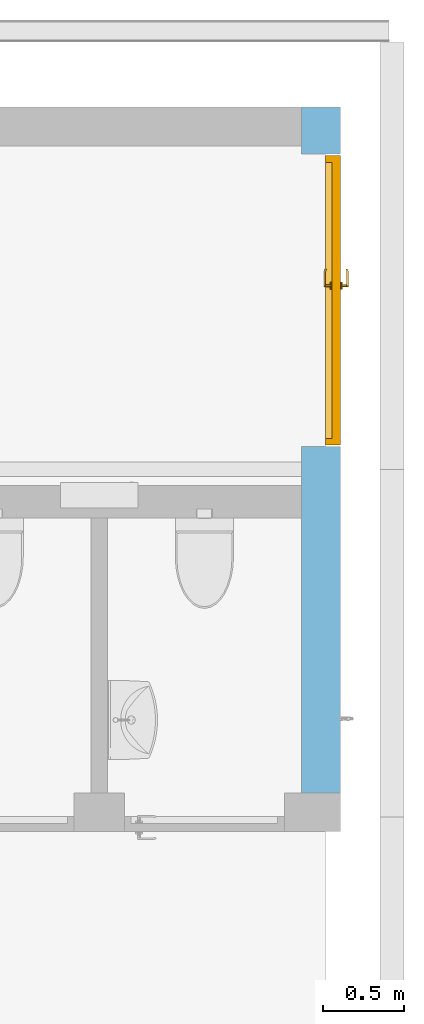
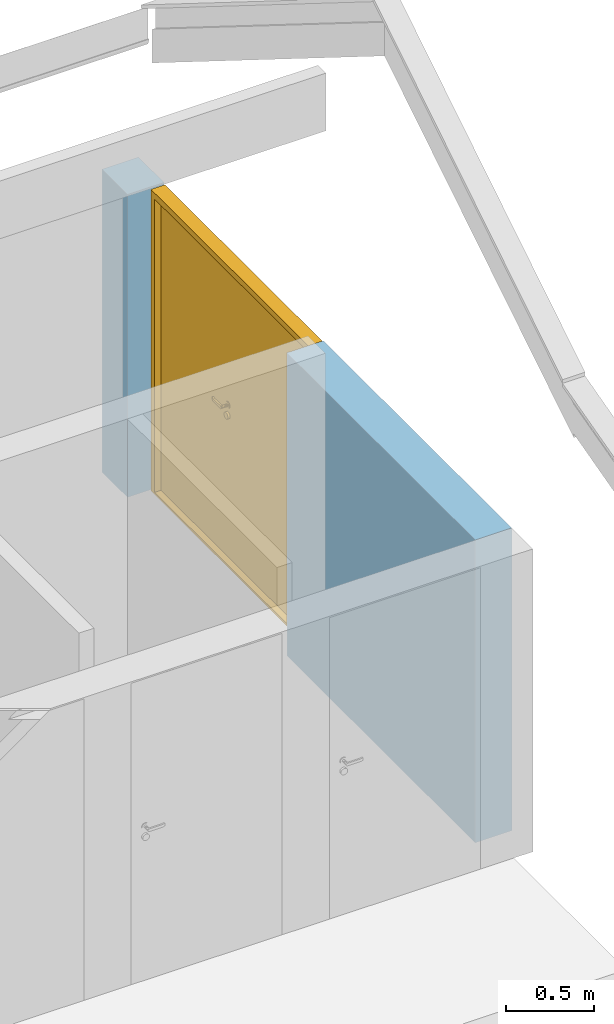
# One storey, part 7 of 15: 1 door, 1 opening, plus 1 element that does not belong to this part.
"""IFC2X3 building model written with IfcOpenShell, lengths in millimetres."""

from ifc_helpers import new_model, entity, si_unit, converted_unit, direction, frame, frame_2d, origin, place, context, subcontext, project, spatial, rectangle, extrude, faceted_brep, source, transform, mapped, material, material_list, layer, layer_set, layer_usage, type_object, type_shapes, element, fill, save


model = new_model("IFC2X3")

# Units and contexts
model_context = context("Model", 3, precision=0.01, world=origin(), true_north=direction((0.0, 1.0)))
body_context = subcontext(model_context, "Body", "Model", "MODEL_VIEW")
ifc_project = project(units=[si_unit("LENGTHUNIT", "METRE", prefix="MILLI"), si_unit("AREAUNIT", "SQUARE_METRE"), si_unit("VOLUMEUNIT", "CUBIC_METRE"), converted_unit("PLANEANGLEUNIT", "DEGREE", entity("IfcPlaneAngleMeasure", 0.017453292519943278), si_unit("PLANEANGLEUNIT", "RADIAN"), dimensions=[0, 0, 0, 0, 0, 0, 0])], contexts=[model_context])

# Site, building, storey
site_placement = place(None, origin())
site = spatial("IfcSite", under=ifc_project, at=site_placement, Name="Default", CompositionType="ELEMENT")
building_placement = place(site_placement, origin())
building = spatial("IfcBuilding", under=site, at=building_placement, CompositionType="ELEMENT")
storey_placement = place(building_placement, origin())
storey = spatial("IfcBuildingStorey", under=building, at=storey_placement, Name="Et. 1", CompositionType="ELEMENT", Elevation=0.0)

# Wall, opening, door
ifc_material_1 = material(Name="Vegg - Dobbelfals Stående Kledning - Mørkegrå")
ifc_layer_1 = layer(ifc_material_1, 19.0)
ifc_material_2 = material(Name="Default Floor")
ifc_layer_2 = layer(ifc_material_2, 36.0)
ifc_layer_3 = layer(ifc_material_2, 23.0)
ifc_layer_4 = layer(ifc_material_2, 12.0)
ifc_material_3 = material(Name="Vegg - Stender - Isolert")
ifc_layer_5 = layer(ifc_material_3, 150.0)
ifc_layer_set = layer_set([ifc_layer_1, ifc_layer_2, ifc_layer_3, ifc_layer_4, ifc_layer_5], Name="Basic Wall:Yttervegg stående kl")
ifc_layer_usage = layer_usage(ifc_layer_set, "AXIS2", "POSITIVE", -120.00000000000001)
wall_type = type_object("IfcWallType", Name="Basic Wall:Yttervegg stående kl", PredefinedType="STANDARD", material=ifc_layer_set)
wall_placement = place(storey_placement, frame((23670.567419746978, 11853.190261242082, 0.0), z_axis=(0.0, 0.0, 1.0), x_axis=(0.0, 1.0, 0.0)))
wall = element("IfcWallStandardCase", 1, at=wall_placement, inside=storey, type_object=wall_type, material=ifc_layer_usage, Name="Basic Wall:Yttervegg stående kl", context=body_context, shape_type="SweptSolid", body=[
    extrude(rectangle(XDim=4240.000000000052, YDim=240.00000000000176, at=frame_2d((2120.000000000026, -2.5082158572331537e-12), x_axis=(1.0, 0.0))), origin(), (0.0, 0.0, 1.0), 2100.0),
])
opening_placement = place(wall_placement, frame((3950.0, 120.0, 0.0)))
opening = element("IfcOpeningElement", 2, at=opening_placement, cuts=wall, Name="YD dobbel hel omramming:18x21M:1", ObjectType="Opening", context=body_context, shape_type="SweptSolid", body=[
    extrude(rectangle(XDim=1810.0000000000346, YDim=2100.000000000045, at=frame_2d((1050.0000000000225, 905.0000000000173), x_axis=(0.0, -1.0))), frame((0.0, 0.0, 0.0), z_axis=(0.0, -1.0, 0.0), x_axis=(0.0, 0.0, 1.0)), (0.0, 0.0, 1.0), 240.00000000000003),
])
ifc_material_4 = material(Name="Focus - Dør - Håndtak")
ifc_material_5 = material(Name="Focus - Dør - Terskel - Eik")
ifc_material_list = material_list([ifc_material_4, ifc_material_1, ifc_material_5])
door_style = type_object("IfcDoorStyle", Name="YD dobbel hel omramming:18x21M", ConstructionType="NOTDEFINED", OperationType="DOUBLE_DOOR_SINGLE_SWING", ParameterTakesPrecedence=False, Sizeable=False, material=ifc_material_list)
shared_shape = source(origin(), body_context, "Body", "Brep", [
    faceted_brep([(815.0, 140.0, 1061.0), (727.4876577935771, 140.0, 1061.0), (709.4308821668, 144.8382984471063, 1061.0), (712.0190726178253, 154.49755670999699, 1061.0), (728.8041827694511, 150.0, 1061.0), (815.0, 150.0, 1061.0), (812.6706285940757, 150.0, 1061.3066675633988), (728.8041827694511, 150.0, 1079.0), (815.0, 150.0, 1079.0), (812.6706285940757, 150.0, 1078.693332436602), (810.4999999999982, 150.0, 1077.7942286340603), (808.6360389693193, 150.0, 1076.3639610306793), (807.2057713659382, 150.0, 1074.5000000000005), (806.3066675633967, 150.0, 1072.3293714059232), (806.0, 150.0, 1070.0), (806.3066675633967, 150.0, 1067.6706285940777), (807.2057713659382, 150.0, 1065.5000000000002), (808.6360389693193, 150.0, 1063.6360389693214), (810.4999999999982, 150.0, 1062.2057713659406), (815.0, 140.0, 1079.0), (712.0190726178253, 154.497556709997, 1079.0), (709.4308821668, 144.83829844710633, 1079.0), (727.4876577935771, 140.0, 1079.0), (824.0, 140.0, 1070.0), (823.7739335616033, 140.0, 1072.0045173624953), (823.1082066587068, 140.0, 1073.9060190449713), (822.0361879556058, 140.0, 1075.6117785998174), (820.6117785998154, 140.0, 1077.036187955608), (818.9060190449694, 140.0, 1078.1082066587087), (817.0038376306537, 140.0, 1078.7740888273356), (817.0038376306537, 140.0, 1061.225911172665), (818.9060190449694, 140.0, 1061.891793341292), (820.6117785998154, 140.0, 1062.9638120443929), (822.0361879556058, 140.0, 1064.3882214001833), (823.1082066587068, 140.0, 1066.093980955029), (823.7739335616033, 140.0, 1067.9954826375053), (823.6933324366, 184.0, 1072.329371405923), (824.0, 184.0, 1070.0), (822.7942286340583, 184.0, 1074.5000000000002), (821.3639610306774, 184.0, 1076.363961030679), (819.4999999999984, 184.0, 1077.7942286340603), (817.3293714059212, 184.0, 1078.693332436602), (812.6706285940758, 184.0, 1078.693332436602), (815.0, 184.0, 1079.0), (810.4999999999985, 184.0, 1077.7942286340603), (808.6360389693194, 184.0, 1076.3639610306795), (807.2057713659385, 184.0, 1074.5000000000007), (806.3066675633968, 184.0, 1072.3293714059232), (806.0, 184.0, 1070.0), (806.3066675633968, 184.0, 1067.6706285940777), (807.2057713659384, 184.0, 1065.5000000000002), (808.6360389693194, 184.0, 1063.6360389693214), (810.4999999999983, 184.0, 1062.2057713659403), (812.6706285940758, 184.0, 1061.3066675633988), (815.0, 184.0, 1061.0), (817.329371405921, 184.0, 1061.3066675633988), (819.4999999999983, 184.0, 1062.2057713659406), (821.3639610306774, 184.0, 1063.6360389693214), (823.6933324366, 184.0, 1067.6706285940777), (822.7942286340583, 184.0, 1065.5000000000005), (804.0, 184.0, 1089.0525588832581), (799.4436508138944, 184.0, 1085.5563491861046), (809.305981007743, 184.0, 1091.2503681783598), (815.0, 184.0, 1092.0), (820.6940189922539, 184.0, 1091.2503681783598), (826.0, 184.0, 1089.052558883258), (830.5563491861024, 184.0, 1085.5563491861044), (834.052558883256, 184.0, 1081.0), (836.2503681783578, 184.0, 1075.694018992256), (837.0, 184.0, 1070.0), (836.2503681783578, 184.0, 1064.3059810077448), (834.052558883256, 184.0, 1059.0), (830.5563491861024, 184.0, 1054.4436508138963), (826.0, 184.0, 1050.9474411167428), (820.6940189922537, 184.0, 1048.7496318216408), (815.0, 184.0, 1048.0), (809.3059810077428, 184.0, 1048.749631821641), (804.0, 184.0, 1050.9474411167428), (799.4436508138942, 184.0, 1054.4436508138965), (795.9474411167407, 184.0, 1059.0), (793.7496318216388, 184.0, 1064.305981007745), (793.0, 184.0, 1070.0), (793.7496318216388, 184.0, 1075.694018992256), (795.9474411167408, 184.0, 1081.0), (809.3059810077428, 190.0, 1048.749631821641), (804.0, 190.0, 1050.9474411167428), (799.4436508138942, 190.0, 1054.4436508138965), (795.9474411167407, 190.0, 1059.0), (793.7496318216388, 190.0, 1064.305981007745), (793.0, 190.0, 1070.0), (793.7496318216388, 190.0, 1075.694018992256), (795.9474411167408, 190.0, 1081.0), (799.4436508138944, 190.0, 1085.5563491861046), (804.0, 190.0, 1089.0525588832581), (809.305981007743, 190.0, 1091.2503681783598), (815.0, 190.0, 1092.0), (820.6940189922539, 190.0, 1091.2503681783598), (826.0, 190.0, 1089.052558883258), (830.5563491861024, 190.0, 1085.5563491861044), (834.052558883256, 190.0, 1081.0), (836.2503681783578, 190.0, 1075.694018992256), (837.0, 190.0, 1070.0), (836.2503681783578, 190.0, 1064.3059810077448), (834.052558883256, 190.0, 1059.0), (830.5563491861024, 190.0, 1054.4436508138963), (826.0, 190.0, 1050.9474411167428), (820.6940189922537, 190.0, 1048.7496318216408), (815.0, 190.0, 1048.0)], [[[0, 1, 2, 3, 4, 5]], [[6, 5, 4, 7, 8, 9, 10, 11, 12, 13, 14, 15, 16, 17, 18]], [[19, 8, 7, 20, 21, 22]], [[23, 24, 25, 26, 27, 28, 29, 19, 22, 1, 0, 30, 31, 32, 33, 34, 35]], [[3, 2, 21, 20]], [[7, 4, 3, 20]], [[1, 22, 21, 2]], [[36, 24, 37]], [[36, 8, 25]], [[38, 39, 8]], [[40, 8, 39]], [[40, 41, 8]], [[38, 8, 36]], [[8, 19, 29]], [[36, 25, 24]], [[24, 23, 37]], [[8, 28, 27]], [[27, 26, 8]], [[8, 26, 25]], [[8, 29, 28]], [[42, 9, 8, 43]], [[44, 10, 9, 42]], [[12, 11, 45, 46]], [[46, 47, 13, 12]], [[44, 45, 11, 10]], [[48, 14, 13, 47]], [[43, 8, 41]], [[49, 15, 14, 48]], [[50, 16, 15, 49]], [[18, 17, 51, 52]], [[52, 53, 6, 18]], [[5, 6, 53, 54]], [[50, 51, 17, 16]], [[5, 30, 0]], [[55, 56, 5]], [[56, 57, 5]], [[58, 5, 59]], [[58, 34, 5]], [[5, 57, 59]], [[37, 35, 58]], [[31, 30, 5]], [[32, 31, 5]], [[34, 33, 5]], [[33, 32, 5]], [[58, 35, 34]], [[37, 23, 35]], [[55, 5, 54]], [[44, 42, 60]], [[61, 44, 60]], [[44, 61, 45]], [[42, 62, 60]], [[62, 42, 43]], [[62, 43, 63]], [[41, 63, 43]], [[63, 41, 64]], [[41, 40, 64]], [[65, 64, 40]], [[39, 65, 40]], [[65, 39, 66]], [[38, 66, 39]], [[67, 66, 38]], [[36, 67, 38]], [[68, 67, 36]], [[68, 36, 37]], [[68, 37, 69]], [[69, 37, 58]], [[69, 58, 70]], [[70, 58, 59]], [[70, 59, 71]], [[72, 71, 59]], [[72, 59, 57]], [[57, 73, 72]], [[57, 56, 73]], [[74, 73, 56]], [[55, 74, 56]], [[55, 75, 74]], [[75, 55, 54]], [[54, 76, 75]], [[53, 76, 54]], [[76, 53, 77]], [[52, 77, 53]], [[78, 77, 52]], [[78, 52, 51]], [[78, 51, 79]], [[79, 51, 50]], [[79, 50, 80]], [[49, 80, 50]], [[81, 80, 49]], [[49, 48, 81]], [[48, 82, 81]], [[82, 48, 47]], [[82, 47, 83]], [[47, 46, 83]], [[45, 83, 46]], [[61, 83, 45]], [[84, 85, 86, 87, 88, 89, 90, 91, 92, 93, 94, 95, 96, 97, 98, 99, 100, 101, 102, 103, 104, 105, 106, 107]], [[100, 68, 69, 101]], [[99, 67, 68, 100]], [[65, 66, 98, 97]], [[99, 98, 66, 67]], [[64, 65, 97, 96]], [[63, 64, 96, 95]], [[94, 62, 63, 95]], [[93, 60, 62, 94]], [[83, 61, 92, 91]], [[93, 92, 61, 60]], [[82, 83, 91, 90]], [[81, 82, 90, 89]], [[88, 80, 81, 89]], [[87, 79, 80, 88]], [[77, 78, 86, 85]], [[87, 86, 78, 79]], [[76, 77, 85, 84]], [[75, 76, 84, 107]], [[106, 74, 75, 107]], [[105, 73, 74, 106]], [[71, 72, 104, 103]], [[105, 104, 72, 73]], [[70, 71, 103, 102]], [[69, 70, 102, 101]]]),
    faceted_brep([(804.0, 175.0, 1019.0525588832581), (799.4436508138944, 175.0, 1015.5563491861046), (795.9474411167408, 175.0, 1011.0), (793.7496318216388, 175.0, 1005.694018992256), (793.0, 175.0, 1000.0), (793.7496318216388, 175.0, 994.305981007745), (795.9474411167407, 175.0, 989.0), (799.4436508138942, 175.0, 984.4436508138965), (804.0, 175.0, 980.9474411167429), (809.3059810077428, 175.0, 978.7496318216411), (815.0, 175.0, 978.0), (820.6940189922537, 175.0, 978.749631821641), (826.0, 175.0, 980.9474411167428), (830.5563491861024, 175.0, 984.4436508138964), (834.052558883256, 175.0, 989.0), (836.2503681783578, 175.0, 994.3059810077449), (837.0, 175.0, 1000.0), (836.2503681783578, 175.0, 1005.6940189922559), (834.052558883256, 175.0, 1011.0), (830.5563491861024, 175.0, 1015.5563491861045), (826.0, 175.0, 1019.052558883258), (820.6940189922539, 175.0, 1021.2503681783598), (815.0, 175.0, 1022.0), (809.305981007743, 175.0, 1021.2503681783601), (820.6940189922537, 190.0, 978.749631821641), (815.0, 190.0, 978.0), (809.3059810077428, 190.0, 978.7496318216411), (804.0, 190.0, 980.9474411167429), (799.4436508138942, 190.0, 984.4436508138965), (795.9474411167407, 190.0, 989.0), (793.7496318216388, 190.0, 994.305981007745), (793.0, 190.0, 1000.0), (793.7496318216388, 190.0, 1005.694018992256), (795.9474411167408, 190.0, 1011.0), (799.4436508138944, 190.0, 1015.5563491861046), (804.0, 190.0, 1019.0525588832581), (809.305981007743, 190.0, 1021.2503681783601), (815.0, 190.0, 1022.0), (820.6940189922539, 190.0, 1021.2503681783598), (826.0, 190.0, 1019.052558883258), (830.5563491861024, 190.0, 1015.5563491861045), (834.052558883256, 190.0, 1011.0), (836.2503681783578, 190.0, 1005.6940189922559), (837.0, 190.0, 1000.0), (836.2503681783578, 190.0, 994.3059810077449), (834.052558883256, 190.0, 989.0), (830.5563491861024, 190.0, 984.4436508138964), (826.0, 190.0, 980.9474411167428)], [[[0, 1, 2, 3, 4, 5, 6, 7, 8, 9, 10, 11, 12, 13, 14, 15, 16, 17, 18, 19, 20, 21, 22, 23]], [[24, 25, 26, 27, 28, 29, 30, 31, 32, 33, 34, 35, 36, 37, 38, 39, 40, 41, 42, 43, 44, 45, 46, 47]], [[42, 17, 16, 43]], [[41, 18, 17, 42]], [[20, 19, 40, 39]], [[41, 40, 19, 18]], [[21, 20, 39, 38]], [[22, 21, 38, 37]], [[36, 23, 22, 37]], [[35, 0, 23, 36]], [[2, 1, 34, 33]], [[35, 34, 1, 0]], [[3, 2, 33, 32]], [[4, 3, 32, 31]], [[30, 5, 4, 31]], [[29, 6, 5, 30]], [[8, 7, 28, 27]], [[29, 28, 7, 6]], [[9, 8, 27, 26]], [[10, 9, 26, 25]], [[24, 11, 10, 25]], [[47, 12, 11, 24]], [[14, 13, 46, 45]], [[46, 13, 12, 47]], [[15, 44, 43, 16]], [[15, 14, 45, 44]]]),
    faceted_brep([(815.0, 280.0, 1061.0), (728.8041827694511, 280.0, 1061.0), (712.0190726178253, 275.50244329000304, 1061.0), (709.4308821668, 285.16170155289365, 1061.0), (727.4876577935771, 290.0, 1061.0), (815.0, 290.0, 1061.0), (812.6706285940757, 280.0, 1061.3066675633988), (810.4999999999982, 280.0, 1062.2057713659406), (808.6360389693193, 280.0, 1063.6360389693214), (807.2057713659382, 280.0, 1065.5000000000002), (806.3066675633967, 280.0, 1067.6706285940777), (806.0, 280.0, 1070.0), (806.3066675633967, 280.0, 1072.3293714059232), (807.2057713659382, 280.0, 1074.5000000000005), (808.6360389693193, 280.0, 1076.3639610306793), (810.4999999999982, 280.0, 1077.7942286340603), (812.6706285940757, 280.0, 1078.693332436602), (815.0, 280.0, 1079.0), (728.8041827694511, 280.0, 1079.0), (815.0, 290.0, 1079.0), (727.4876577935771, 290.0, 1079.0), (709.4308821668, 285.16170155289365, 1079.0), (712.0190726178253, 275.50244329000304, 1079.0), (823.1082066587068, 290.0, 1073.9060190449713), (823.7739335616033, 290.0, 1072.0045173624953), (824.0, 290.0, 1070.0), (823.7739335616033, 290.0, 1067.9954826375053), (823.1082066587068, 290.0, 1066.093980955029), (822.0361879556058, 290.0, 1064.3882214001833), (820.6117785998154, 290.0, 1062.9638120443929), (818.9060190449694, 290.0, 1061.891793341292), (817.0038376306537, 290.0, 1061.225911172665), (817.0038376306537, 290.0, 1078.7740888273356), (818.9060190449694, 290.0, 1078.1082066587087), (820.6117785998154, 290.0, 1077.036187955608), (822.0361879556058, 290.0, 1075.6117785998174), (824.0, 246.0, 1070.0), (823.6933324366, 246.0, 1072.329371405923), (821.3639610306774, 246.0, 1076.363961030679), (822.7942286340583, 246.0, 1074.5000000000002), (819.4999999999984, 246.0, 1077.7942286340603), (817.3293714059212, 246.0, 1078.693332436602), (815.0, 246.0, 1079.0), (812.6706285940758, 246.0, 1078.693332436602), (810.4999999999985, 246.0, 1077.7942286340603), (807.2057713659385, 246.0, 1074.5000000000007), (808.6360389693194, 246.0, 1076.3639610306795), (806.3066675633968, 246.0, 1072.3293714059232), (806.0, 246.0, 1070.0), (806.3066675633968, 246.0, 1067.6706285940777), (807.2057713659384, 246.0, 1065.5000000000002), (810.4999999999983, 246.0, 1062.2057713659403), (808.6360389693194, 246.0, 1063.6360389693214), (812.6706285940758, 246.0, 1061.3066675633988), (815.0, 246.0, 1061.0), (819.4999999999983, 246.0, 1062.2057713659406), (817.329371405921, 246.0, 1061.3066675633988), (821.3639610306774, 246.0, 1063.6360389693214), (822.7942286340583, 246.0, 1065.5000000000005), (823.6933324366, 246.0, 1067.6706285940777), (804.0, 246.0, 1089.0525588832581), (799.4436508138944, 246.0, 1085.5563491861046), (809.305981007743, 246.0, 1091.2503681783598), (815.0, 246.0, 1092.0), (820.6940189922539, 246.0, 1091.2503681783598), (826.0, 246.0, 1089.052558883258), (830.5563491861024, 246.0, 1085.5563491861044), (834.052558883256, 246.0, 1081.0), (836.2503681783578, 246.0, 1075.694018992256), (837.0, 246.0, 1070.0), (836.2503681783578, 246.0, 1064.3059810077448), (834.052558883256, 246.0, 1059.0), (830.5563491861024, 246.0, 1054.4436508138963), (826.0, 246.0, 1050.9474411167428), (820.6940189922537, 246.0, 1048.7496318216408), (815.0, 246.0, 1048.0), (809.3059810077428, 246.0, 1048.749631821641), (804.0, 246.0, 1050.9474411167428), (799.4436508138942, 246.0, 1054.4436508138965), (795.9474411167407, 246.0, 1059.0), (793.7496318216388, 246.0, 1064.305981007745), (793.0, 246.0, 1070.0), (793.7496318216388, 246.0, 1075.694018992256), (795.9474411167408, 246.0, 1081.0), (815.0, 240.0, 1048.0), (820.6940189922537, 240.0, 1048.7496318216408), (826.0, 240.0, 1050.9474411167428), (830.5563491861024, 240.0, 1054.4436508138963), (834.052558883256, 240.0, 1059.0), (836.2503681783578, 240.0, 1064.3059810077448), (837.0, 240.0, 1070.0), (836.2503681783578, 240.0, 1075.694018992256), (834.052558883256, 240.0, 1081.0), (830.5563491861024, 240.0, 1085.5563491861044), (826.0, 240.0, 1089.052558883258), (820.6940189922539, 240.0, 1091.2503681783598), (815.0, 240.0, 1092.0), (809.305981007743, 240.0, 1091.2503681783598), (804.0, 240.0, 1089.0525588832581), (799.4436508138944, 240.0, 1085.5563491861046), (795.9474411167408, 240.0, 1081.0), (793.7496318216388, 240.0, 1075.694018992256), (793.0, 240.0, 1070.0), (793.7496318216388, 240.0, 1064.305981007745), (795.9474411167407, 240.0, 1059.0), (799.4436508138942, 240.0, 1054.4436508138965), (804.0, 240.0, 1050.9474411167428), (809.3059810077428, 240.0, 1048.749631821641)], [[[0, 1, 2, 3, 4, 5]], [[1, 0, 6, 7, 8, 9, 10, 11, 12, 13, 14, 15, 16, 17, 18]], [[18, 17, 19, 20, 21, 22]], [[23, 24, 25, 26, 27, 28, 29, 30, 31, 5, 4, 20, 19, 32, 33, 34, 35]], [[21, 3, 2, 22]], [[2, 1, 18, 22]], [[21, 20, 4, 3]], [[36, 24, 37]], [[23, 17, 37]], [[17, 38, 39]], [[38, 17, 40]], [[17, 41, 40]], [[37, 17, 39]], [[32, 19, 17]], [[24, 23, 37]], [[36, 25, 24]], [[34, 33, 17]], [[17, 35, 34]], [[23, 35, 17]], [[33, 32, 17]], [[42, 17, 16, 43]], [[43, 16, 15, 44]], [[45, 46, 14, 13]], [[12, 47, 45, 13]], [[14, 46, 44, 15]], [[47, 12, 11, 48]], [[41, 17, 42]], [[48, 11, 10, 49]], [[49, 10, 9, 50]], [[51, 52, 8, 7]], [[6, 53, 51, 7]], [[54, 53, 6, 0]], [[8, 52, 50, 9]], [[5, 31, 0]], [[0, 55, 56]], [[0, 57, 55]], [[58, 0, 59]], [[0, 27, 59]], [[58, 57, 0]], [[59, 26, 36]], [[0, 31, 30]], [[0, 30, 29]], [[0, 28, 27]], [[0, 29, 28]], [[27, 26, 59]], [[26, 25, 36]], [[54, 0, 56]], [[60, 43, 44]], [[60, 44, 61]], [[60, 62, 43]], [[42, 43, 62]], [[63, 42, 62]], [[42, 63, 41]], [[64, 41, 63]], [[64, 40, 41]], [[40, 64, 65]], [[40, 65, 38]], [[66, 38, 65]], [[38, 66, 39]], [[39, 66, 67]], [[39, 67, 37]], [[37, 67, 68]], [[36, 37, 68]], [[69, 36, 68]], [[59, 36, 69]], [[70, 59, 69]], [[58, 59, 70]], [[71, 58, 70]], [[58, 71, 72]], [[57, 58, 72]], [[72, 73, 57]], [[73, 55, 57]], [[55, 73, 74]], [[55, 74, 56]], [[74, 75, 56]], [[54, 56, 75]], [[75, 76, 54]], [[54, 76, 53]], [[77, 53, 76]], [[53, 77, 51]], [[51, 77, 78]], [[52, 51, 78]], [[79, 52, 78]], [[50, 52, 79]], [[80, 50, 79]], [[50, 80, 49]], [[49, 80, 81]], [[81, 48, 49]], [[81, 82, 48]], [[47, 48, 82]], [[83, 47, 82]], [[46, 83, 61]], [[83, 45, 47]], [[45, 83, 46]], [[46, 61, 44]], [[84, 85, 86, 87, 88, 89, 90, 91, 92, 93, 94, 95, 96, 97, 98, 99, 100, 101, 102, 103, 104, 105, 106, 107]], [[90, 69, 68, 91]], [[91, 68, 67, 92]], [[94, 93, 66, 65]], [[66, 93, 92, 67]], [[95, 94, 65, 64]], [[95, 64, 63, 96]], [[96, 63, 62, 97]], [[97, 62, 60, 98]], [[100, 99, 61, 83]], [[61, 99, 98, 60]], [[101, 100, 83, 82]], [[101, 82, 81, 102]], [[102, 81, 80, 103]], [[103, 80, 79, 104]], [[106, 105, 78, 77]], [[78, 105, 104, 79]], [[107, 106, 77, 76]], [[107, 76, 75, 84]], [[84, 75, 74, 85]], [[85, 74, 73, 86]], [[88, 87, 72, 71]], [[72, 87, 86, 73]], [[89, 88, 71, 70]], [[89, 70, 69, 90]]]),
    faceted_brep([(809.305981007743, 255.0, 1021.2503681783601), (815.0, 255.0, 1022.0), (820.6940189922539, 255.0, 1021.2503681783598), (826.0, 255.0, 1019.052558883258), (830.5563491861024, 255.0, 1015.5563491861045), (834.052558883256, 255.0, 1011.0), (836.2503681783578, 255.0, 1005.6940189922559), (837.0, 255.0, 1000.0), (836.2503681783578, 255.0, 994.3059810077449), (834.052558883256, 255.0, 989.0), (830.5563491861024, 255.0, 984.4436508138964), (826.0, 255.0, 980.9474411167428), (820.6940189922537, 255.0, 978.749631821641), (815.0, 255.0, 978.0), (809.3059810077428, 255.0, 978.7496318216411), (804.0, 255.0, 980.9474411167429), (799.4436508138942, 255.0, 984.4436508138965), (795.9474411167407, 255.0, 989.0), (793.7496318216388, 255.0, 994.305981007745), (793.0, 255.0, 1000.0), (793.7496318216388, 255.0, 1005.694018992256), (795.9474411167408, 255.0, 1011.0), (799.4436508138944, 255.0, 1015.5563491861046), (804.0, 255.0, 1019.0525588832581), (809.3059810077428, 240.0, 978.7496318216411), (815.0, 240.0, 978.0), (820.6940189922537, 240.0, 978.749631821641), (826.0, 240.0, 980.9474411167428), (830.5563491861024, 240.0, 984.4436508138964), (834.052558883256, 240.0, 989.0), (836.2503681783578, 240.0, 994.3059810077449), (837.0, 240.0, 1000.0), (836.2503681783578, 240.0, 1005.6940189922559), (834.052558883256, 240.0, 1011.0), (830.5563491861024, 240.0, 1015.5563491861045), (826.0, 240.0, 1019.052558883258), (820.6940189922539, 240.0, 1021.2503681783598), (815.0, 240.0, 1022.0), (809.305981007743, 240.0, 1021.2503681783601), (804.0, 240.0, 1019.0525588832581), (799.4436508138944, 240.0, 1015.5563491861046), (795.9474411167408, 240.0, 1011.0), (793.7496318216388, 240.0, 1005.694018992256), (793.0, 240.0, 1000.0), (793.7496318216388, 240.0, 994.305981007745), (795.9474411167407, 240.0, 989.0), (799.4436508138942, 240.0, 984.4436508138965), (804.0, 240.0, 980.9474411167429)], [[[0, 1, 2, 3, 4, 5, 6, 7, 8, 9, 10, 11, 12, 13, 14, 15, 16, 17, 18, 19, 20, 21, 22, 23]], [[24, 25, 26, 27, 28, 29, 30, 31, 32, 33, 34, 35, 36, 37, 38, 39, 40, 41, 42, 43, 44, 45, 46, 47]], [[31, 7, 6, 32]], [[32, 6, 5, 33]], [[35, 34, 4, 3]], [[4, 34, 33, 5]], [[36, 35, 3, 2]], [[36, 2, 1, 37]], [[37, 1, 0, 38]], [[38, 0, 23, 39]], [[41, 40, 22, 21]], [[22, 40, 39, 23]], [[42, 41, 21, 20]], [[42, 20, 19, 43]], [[43, 19, 18, 44]], [[44, 18, 17, 45]], [[47, 46, 16, 15]], [[16, 46, 45, 17]], [[24, 47, 15, 14]], [[24, 14, 13, 25]], [[25, 13, 12, 26]], [[26, 12, 11, 27]], [[29, 28, 10, 9]], [[27, 11, 10, 28]], [[7, 31, 30, 8]], [[29, 9, 8, 30]]]),
    faceted_brep([(1758.0, 240.0, 0.0), (1800.0, 240.0, 0.0), (1800.0, 148.0, 0.0), (1758.0, 148.0, 0.0), (1758.0, 240.0, 2048.0), (52.0, 240.0, 2048.0), (52.0, 240.0, 0.0), (10.0, 240.0, 0.0), (10.0, 240.0, 2090.0), (1800.0, 240.0, 2090.0), (1800.0, 148.0, 2090.0), (10.0, 148.0, 2090.0), (10.0, 148.0, 0.0), (52.0, 148.0, 0.0), (52.0, 148.0, 2048.0), (1758.0, 148.0, 2048.0)], [[[0, 1, 2, 3]], [[1, 0, 4, 5, 6, 7, 8, 9]], [[2, 1, 9, 10]], [[3, 2, 10, 11, 12, 13, 14, 15]], [[0, 3, 15, 4]], [[10, 9, 8, 11]], [[4, 15, 14, 5]], [[6, 13, 12, 7]], [[11, 8, 7, 12]], [[5, 14, 13, 6]]]),
    faceted_brep([(52.0, 190.0, 5.0), (1758.0, 190.0, 5.0), (1758.0, 190.0, 2048.0), (52.0, 190.0, 2048.0), (52.0, 240.0, 5.0), (52.0, 240.0, 2048.0), (1758.0, 240.0, 2048.0), (1758.0, 240.0, 5.0)], [[[0, 1, 2, 3]], [[4, 5, 6, 7]], [[1, 0, 4, 7]], [[2, 1, 7, 6]], [[3, 2, 6, 5]], [[0, 3, 5, 4]]]),
    faceted_brep([(1758.0, 240.0, 5.0), (1758.0, 190.0, 5.0), (1758.0, 190.0, 15.0), (1758.0, 148.0, 15.0), (1758.0, 148.0, 0.0), (1758.0, 240.0, 0.0), (52.0, 240.0, 5.0), (52.0, 240.0, 0.0), (52.0, 148.0, 0.0), (52.0, 148.0, 15.0), (52.0, 190.0, 15.0), (52.0, 190.0, 5.0)], [[[0, 1, 2, 3, 4, 5]], [[6, 7, 8, 9, 10, 11]], [[1, 0, 6, 11]], [[2, 1, 11, 10]], [[3, 2, 10, 9]], [[4, 3, 9, 8]], [[5, 4, 8, 7]], [[0, 5, 7, 6]]]),
])
type_shapes(door_style, [shared_shape])
door_placement = place(opening_placement, frame((0.0, 0.0, 0.0), z_axis=(0.0, 0.0, 1.0), x_axis=(-1.0, 0.0, 0.0)))
door = element("IfcDoor", 3, at=door_placement, inside=storey, type_object=door_style, material=ifc_material_list, Name="YD dobbel hel omramming:18x21M", OverallHeight=2100.000000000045, OverallWidth=1810.0000000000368, context=body_context, shape_type="MappedRepresentation", body=[
    mapped(shared_shape, transform((0.0, 0.0, 0.0), scale=1.0)),
])
fill(opening, door)

save(model, "model.ifc")
